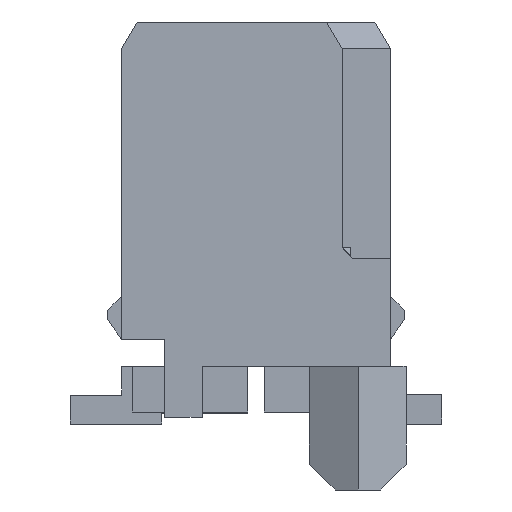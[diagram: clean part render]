
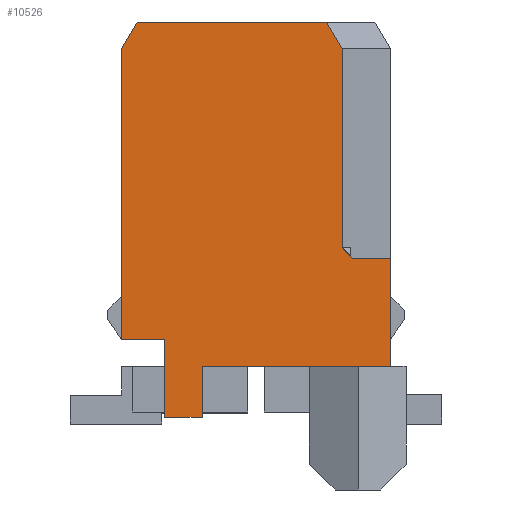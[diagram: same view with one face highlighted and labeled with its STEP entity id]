
A CAD part, left-side view. The second image highlights one B-rep face of the part: STEP entity #10526.
In plain terms, the highlighted planar face has unit normal (-1, 0, 0).
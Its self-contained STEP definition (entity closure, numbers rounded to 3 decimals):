
#1=DIRECTION('',(0.,-1.,0.));
#2=VECTOR('',#1,0.7);
#3=CARTESIAN_POINT('',(-17.13,-1.8,2.));
#4=LINE('',#3,#2);
#5=DIRECTION('',(0.,0.,-1.));
#6=VECTOR('',#5,2.);
#7=CARTESIAN_POINT('',(-17.13,-2.5,2.));
#8=LINE('',#7,#6);
#9=DIRECTION('',(0.,1.,0.));
#10=VECTOR('',#9,3.5);
#11=CARTESIAN_POINT('',(-17.13,-2.5,0.));
#12=LINE('',#11,#10);
#13=DIRECTION('',(0.,0.,-1.));
#14=VECTOR('',#13,0.95);
#15=CARTESIAN_POINT('',(-17.13,1.,0.));
#16=LINE('',#15,#14);
#17=DIRECTION('',(0.,0.,1.));
#18=VECTOR('',#17,1.45);
#19=CARTESIAN_POINT('',(-17.13,1.7,-0.95));
#20=LINE('',#19,#18);
#21=DIRECTION('',(0.,1.,0.));
#22=VECTOR('',#21,0.8);
#23=CARTESIAN_POINT('',(-17.13,1.7,0.5));
#24=LINE('',#23,#22);
#25=DIRECTION('',(0.,0.,1.));
#26=VECTOR('',#25,5.4);
#27=CARTESIAN_POINT('',(-17.13,2.5,0.5));
#28=LINE('',#27,#26);
#29=DIRECTION('',(0.,0.5,-0.866));
#30=VECTOR('',#29,0.577);
#31=CARTESIAN_POINT('',(-17.13,2.211,6.4));
#32=LINE('',#31,#30);
#33=DIRECTION('',(0.,0.5,0.866));
#34=VECTOR('',#33,0.577);
#35=CARTESIAN_POINT('',(-17.13,-1.6,5.9));
#36=LINE('',#35,#34);
#41=DIRECTION('',(0.,0.,1.));
#42=VECTOR('',#41,3.7);
#43=CARTESIAN_POINT('',(-17.13,-1.6,2.2));
#44=LINE('',#43,#42);
#57=DIRECTION('',(0.,0.707,0.707));
#58=VECTOR('',#57,0.283);
#59=CARTESIAN_POINT('',(-17.13,-1.8,2.));
#60=LINE('',#59,#58);
#1989=DIRECTION('',(0.,-1.,0.));
#1990=VECTOR('',#1989,3.523);
#1991=CARTESIAN_POINT('',(-17.13,2.211,6.4));
#1992=LINE('',#1991,#1990);
#5765=DIRECTION('',(0.,1.,0.));
#5766=VECTOR('',#5765,0.7);
#5767=CARTESIAN_POINT('',(-17.13,1.,-0.95));
#5768=LINE('',#5767,#5766);
#7901=CARTESIAN_POINT('',(-17.13,-2.5,2.));
#7902=CARTESIAN_POINT('',(-17.13,-2.5,0.));
#7903=VERTEX_POINT('',#7901);
#7904=VERTEX_POINT('',#7902);
#7905=CARTESIAN_POINT('',(-17.13,1.7,0.5));
#7906=CARTESIAN_POINT('',(-17.13,2.5,0.5));
#7907=VERTEX_POINT('',#7905);
#7908=VERTEX_POINT('',#7906);
#8259=CARTESIAN_POINT('',(-17.13,1.7,-0.95));
#8261=VERTEX_POINT('',#8259);
#8265=CARTESIAN_POINT('',(-17.13,1.,-0.95));
#8266=VERTEX_POINT('',#8265);
#8279=CARTESIAN_POINT('',(-17.13,1.,0.));
#8280=VERTEX_POINT('',#8279);
#8709=CARTESIAN_POINT('',(-17.13,2.211,6.4));
#8710=CARTESIAN_POINT('',(-17.13,2.5,5.9));
#8711=VERTEX_POINT('',#8709);
#8712=VERTEX_POINT('',#8710);
#8721=CARTESIAN_POINT('',(-17.13,-1.6,5.9));
#8722=CARTESIAN_POINT('',(-17.13,-1.311,6.4));
#8723=VERTEX_POINT('',#8721);
#8724=VERTEX_POINT('',#8722);
#8771=CARTESIAN_POINT('',(-17.13,-1.6,2.2));
#8772=VERTEX_POINT('',#8771);
#8773=CARTESIAN_POINT('',(-17.13,-1.8,2.));
#8775=VERTEX_POINT('',#8773);
#10493=CARTESIAN_POINT('',(-17.13,0.,0.));
#10494=DIRECTION('',(1.,0.,0.));
#10495=DIRECTION('',(0.,1.,0.));
#10496=AXIS2_PLACEMENT_3D('',#10493,#10494,#10495);
#10497=PLANE('',#10496);
#10499=ORIENTED_EDGE('',*,*,#10498,.F.);
#10501=ORIENTED_EDGE('',*,*,#10500,.F.);
#10503=ORIENTED_EDGE('',*,*,#10502,.T.);
#10505=ORIENTED_EDGE('',*,*,#10504,.T.);
#10507=ORIENTED_EDGE('',*,*,#10506,.T.);
#10509=ORIENTED_EDGE('',*,*,#10508,.T.);
#10511=ORIENTED_EDGE('',*,*,#10510,.T.);
#10513=ORIENTED_EDGE('',*,*,#10512,.T.);
#10515=ORIENTED_EDGE('',*,*,#10514,.T.);
#10517=ORIENTED_EDGE('',*,*,#10516,.T.);
#10519=ORIENTED_EDGE('',*,*,#10518,.F.);
#10521=ORIENTED_EDGE('',*,*,#10520,.T.);
#10523=ORIENTED_EDGE('',*,*,#10522,.F.);
#10524=EDGE_LOOP('',(#10499,#10501,#10503,#10505,#10507,#10509,#10511,#10513,
#10515,#10517,#10519,#10521,#10523));
#10525=FACE_OUTER_BOUND('',#10524,.F.);
#10526=ADVANCED_FACE('',(#10525),#10497,.F.);
#10498=EDGE_CURVE('',#8772,#8723,#44,.T.);
#10500=EDGE_CURVE('',#8775,#8772,#60,.T.);
#10502=EDGE_CURVE('',#8775,#7903,#4,.T.);
#10504=EDGE_CURVE('',#7903,#7904,#8,.T.);
#10506=EDGE_CURVE('',#7904,#8280,#12,.T.);
#10508=EDGE_CURVE('',#8280,#8266,#16,.T.);
#10510=EDGE_CURVE('',#8266,#8261,#5768,.T.);
#10512=EDGE_CURVE('',#8261,#7907,#20,.T.);
#10514=EDGE_CURVE('',#7907,#7908,#24,.T.);
#10516=EDGE_CURVE('',#7908,#8712,#28,.T.);
#10518=EDGE_CURVE('',#8711,#8712,#32,.T.);
#10520=EDGE_CURVE('',#8711,#8724,#1992,.T.);
#10522=EDGE_CURVE('',#8723,#8724,#36,.T.);
